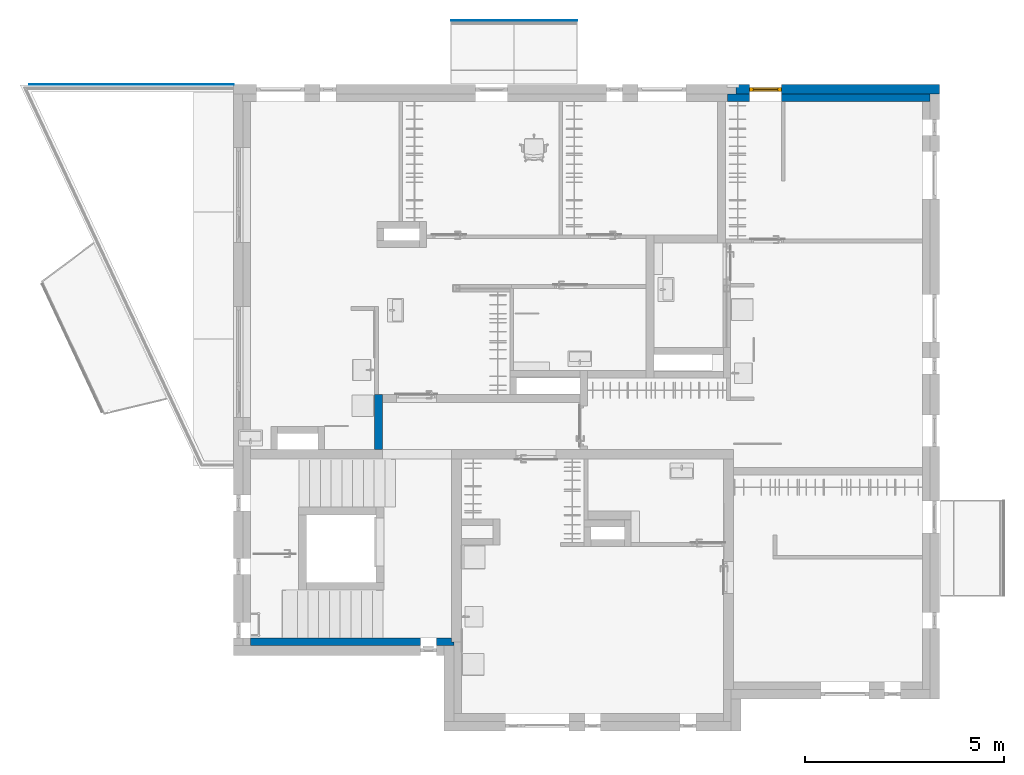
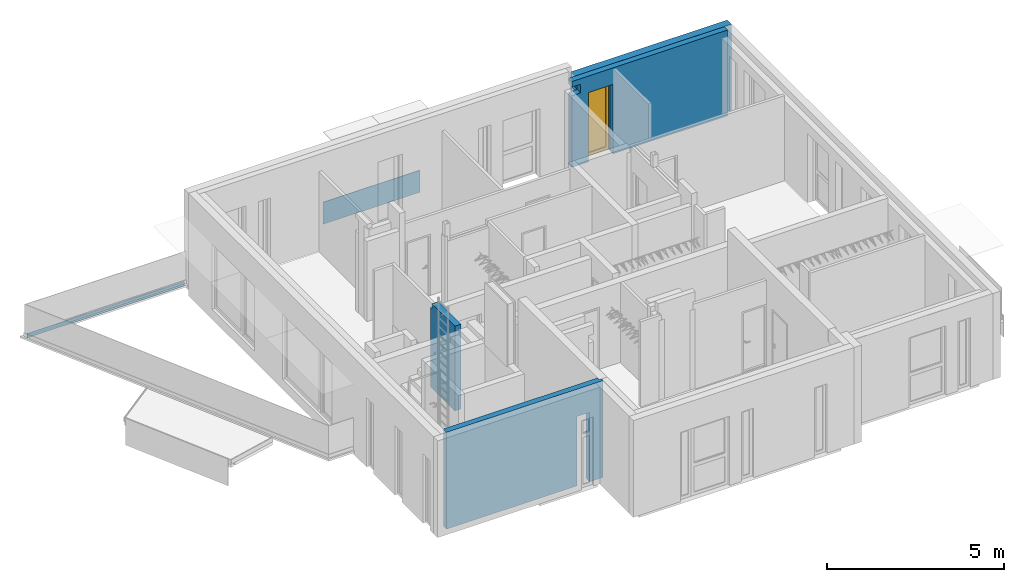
# One storey, part 7 of 42: 6 walls, 1 window, 26 openings.
"""IFC2X3 building model written with IfcOpenShell, lengths in millimetres."""

from ifc_helpers import new_model, entity, si_unit, converted_unit, direction, frame, frame_2d, origin, place, context, subcontext, project, spatial, polyline, rectangle, extrude, clip, bounded_halfspace, faceted_brep, source, transform, mapped, material, material_list, layer, layer_set, layer_usage, type_object, type_shapes, element, fill, save


model = new_model("IFC2X3")

# Units and contexts
model_context = context("Model", 3, precision=0.01, world=origin(), true_north=direction((6.123233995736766e-17, 1.0)))
plan_context = context("Plan", 3, precision=0.01, world=origin(), true_north=direction((6.123233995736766e-17, 1.0)))
body_context = subcontext(model_context, "Body", "Model", "MODEL_VIEW")
ifc_project = project(units=[si_unit("LENGTHUNIT", "METRE", prefix="MILLI"), converted_unit("PLANEANGLEUNIT", "DEGREE", entity("IfcPlaneAngleMeasure", 0.017453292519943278), si_unit("PLANEANGLEUNIT", "RADIAN"), dimensions=[0, 0, 0, 0, 0, 0, 0]), si_unit("AREAUNIT", "SQUARE_METRE")], contexts=[model_context, plan_context])

# Site, building, storey
site_placement = place(None, origin())
site = spatial("IfcSite", under=ifc_project, at=site_placement, Name="Default", CompositionType="ELEMENT")
building_placement = place(site_placement, origin())
building = spatial("IfcBuilding", under=site, at=building_placement, CompositionType="ELEMENT")
storey_placement = place(building_placement, frame((0.0, 0.0, 9465.000076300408)))
storey = spatial("IfcBuildingStorey", under=building, at=storey_placement, Name="4K", CompositionType="ELEMENT", Elevation=9465.000076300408)

# Wall
ifc_material_1 = material(Name="_K. Väisviimistlus. Krohv. Valge")
ifc_layer_1 = layer(ifc_material_1, 5.0)
ifc_material_2 = material(Name="_K. Müüritis. Väikeplokk. Betoon-õõnesplokk")
ifc_layer_2 = layer(ifc_material_2, 190.00000000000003)
ifc_layer_3 = layer(ifc_material_1, 5.0)
ifc_layer_set_1 = layer_set([ifc_layer_1, ifc_layer_2, ifc_layer_3], Name="Basic Wall:SS-01. 190")
wall_type_1 = type_object("IfcWallType", Name="Basic Wall:SS-01. 190", PredefinedType="STANDARD", material=ifc_layer_set_1)
wall_1_placement = place(storey_placement, frame((3220.0, 6644.999959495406, 0.0), z_axis=(0.0, 0.0, 1.0), x_axis=(0.0, 1.0, 0.0)))
element("IfcWall", 1, at=wall_1_placement, inside=storey, type_object=wall_type_1, Name="Basic Wall:SS-01. 190", ObjectType="Basic Wall:SS-01. 190", context=body_context, shape_type="Brep", body=[
    faceted_brep([(0.0, -100.0, 0.0), (1190.0, -100.0, 0.0), (1390.0, -100.0, 0.0), (1390.0, -100.0, 2749.9998779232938), (1290.0, -100.0, 2749.9998779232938), (1290.0, -100.0, 2925.999923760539), (0.0, -100.0, 2925.999923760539), (0.0, -100.0, 2475.999923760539), (0.0, 100.0, 0.0), (0.0, 100.0, 2925.999923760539), (1290.0, 100.0, 2925.999923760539), (1290.0, 100.0, 2749.9998779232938), (1390.0, 100.0, 2749.9998779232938), (1390.0, 100.0, 0.0), (1190.0, 100.0, 0.0), (1290.0, 8.0, 2925.999923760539), (1290.0, 8.0, 2749.9998779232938), (1390.0, 8.0, 2749.9998779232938)], [[[0, 1, 2, 3, 4, 5, 6, 7]], [[8, 9, 10, 11, 12, 13, 14]], [[2, 1, 0, 8, 14, 13]], [[6, 5, 15, 10, 9]], [[0, 7, 6, 9, 8]], [[5, 4, 16, 11, 10, 15]], [[3, 2, 13, 12, 17]], [[11, 16, 4, 3, 17, 12]]]),
])

# Wall, openings
ifc_layer_usage_1 = layer_usage(ifc_layer_set_1, "AXIS2", "NEGATIVE", 100.00000000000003)
wall_2_placement = place(storey_placement, frame((12000.0, 15500.0, 0.0)))
wall_2 = element("IfcWallStandardCase", 2, at=wall_2_placement, inside=storey, type_object=wall_type_1, material=ifc_layer_usage_1, Name="Basic Wall:SS-01. 190", ObjectType="Basic Wall:SS-01. 190", context=body_context, shape_type="Clipping", body=[
    clip(clip(extrude(rectangle(XDim=5089.999999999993, YDim=200.0000000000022, at=frame_2d((2544.9999999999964, 6.679101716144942e-13), x_axis=(-1.0, 0.0))), origin(), (0.0, 0.0, 1.0), 2970.0000686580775), bounded_halfspace(frame((0.0, 90.0, 0.0), z_axis=(0.0, -1.0, 0.0), x_axis=(1.0, 0.0, 0.0)), True, frame((0.0, 90.0, 0.0), z_axis=(0.0, -1.0, 0.0), x_axis=(1.0, 0.0, 0.0)), polyline([(0.0, 0.0), (210.0, 0.0), (550.0, 0.0), (550.0, 2400.0), (1350.0, 2400.0), (1350.0, 0.0), (5090.0, 0.0), (5090.0, 2970.0000686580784), (0.0, 2970.0000686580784), (0.0, 2780.0), (210.0, 2780.0), (280.0, 2780.0), (280.0, 2480.0), (210.0, 2480.0), (0.0, 2480.0), (0.0, 0.0)]))), bounded_halfspace(frame((5090.0, -100.0, 2970.0000686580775), z_axis=(-1.0, 0.0, 0.0), x_axis=(0.0, -1.0, 0.0)), True, frame((5090.0, -100.0, 2970.0000686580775), z_axis=(-1.0, 0.0, 0.0), x_axis=(0.0, -1.0, 0.0)), polyline([(0.0, 0.0), (-190.0, 0.0), (-190.0, -2970.0000686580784), (0.0, -2970.0000686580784), (0.0, -220.0), (0.0, 0.0)]))),
])
opening_1_placement = place(wall_2_placement, frame((-12000.0, -15500.0, 2480.0)))
element("IfcOpeningElement", 3, at=opening_1_placement, cuts=wall_2, Name="Basic Wall:SS-01. 190", ObjectType="Opening", context=body_context, shape_type="SweptSolid", body=[
    extrude(rectangle(XDim=299.9999999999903, YDim=299.9999999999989, at=frame_2d((1.0800249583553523e-12, -1.0800249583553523e-12), x_axis=(1.0, 0.0))), frame((12130.0, 14066.0, 150.0), z_axis=(0.0, 1.0, 0.0), x_axis=(0.0, 0.0, 1.0)), (0.0, 0.0, 1.0), 3048.0),
])
opening_2_placement = place(wall_2_placement, frame((-12000.0, -15500.0, 0.0)))
element("IfcOpeningElement", 4, at=opening_2_placement, cuts=wall_2, Name="Basic Wall:SS-01. 190", ObjectType="Opening", context=body_context, shape_type="Brep", body=[
    faceted_brep([(1350.0, 15850.0, 2400.0), (1350.0, 15156.0, 2400.0), (1350.0, 15156.0, 0.0), (1350.0, 15740.0, 0.0), (1350.0, 15750.0, 0.0), (1350.0, 15850.0, 0.0), (150.0, 15850.0, 2400.0), (150.0, 15156.0, 2400.0), (150.0, 15850.0, 0.0), (150.0, 15750.0, 0.0), (150.0, 15740.0, 0.0), (150.0, 15156.0, 0.0)], [[[0, 1, 2, 3, 4, 5]], [[6, 7, 1, 0]], [[8, 9, 10, 11, 7, 6]], [[5, 4, 3, 2, 11, 10, 9, 8]], [[6, 0, 5, 8]], [[7, 11, 2, 1]]]),
])
opening_3_placement = place(wall_2_placement, frame((-12000.0, -15500.0, 0.0)))
element("IfcOpeningElement", 5, at=opening_3_placement, cuts=wall_2, Name="Basic Wall:SS-01. 190", ObjectType="Opening", context=body_context, shape_type="Brep", body=[
    faceted_brep([(2150.0, 15850.0, 2400.0), (2150.0, 15156.0, 2400.0), (2150.0, 15156.0, 0.0), (2150.0, 15740.0, 0.0), (2150.0, 15750.0, 0.0), (2150.0, 15850.0, 0.0), (1750.0, 15850.0, 2400.0), (1750.0, 15156.0, 2400.0), (1750.0, 15850.0, 0.0), (1750.0, 15750.0, 0.0), (1750.0, 15740.0, 0.0), (1750.0, 15156.0, 0.0)], [[[0, 1, 2, 3, 4, 5]], [[6, 7, 1, 0]], [[8, 9, 10, 11, 7, 6]], [[5, 4, 3, 2, 11, 10, 9, 8]], [[6, 0, 5, 8]], [[7, 11, 2, 1]]]),
])
opening_4_placement = place(wall_2_placement, frame((-12000.0, -15500.0, 0.0)))
element("IfcOpeningElement", 6, at=opening_4_placement, cuts=wall_2, Name="Basic Wall:SS-01. 190", ObjectType="Opening", context=body_context, shape_type="Brep", body=[
    faceted_brep([(6460.0, 15850.0, 2400.0), (6460.0, 15156.0, 2400.0), (6460.0, 15156.0, 0.0), (6460.0, 15740.0, 0.0), (6460.0, 15750.0, 0.0), (6460.0, 15850.0, 0.0), (5660.0, 15850.0, 2400.0), (5660.0, 15156.0, 2400.0), (5660.0, 15850.0, 0.0), (5660.0, 15750.0, 0.0), (5660.0, 15740.0, 0.0), (5660.0, 15156.0, 0.0)], [[[0, 1, 2, 3, 4, 5]], [[6, 7, 1, 0]], [[8, 9, 10, 11, 7, 6]], [[5, 4, 3, 2, 11, 10, 9, 8]], [[6, 0, 5, 8]], [[7, 11, 2, 1]]]),
])
opening_5_placement = place(wall_2_placement, frame((-12000.0, -15500.0, 0.0)))
element("IfcOpeningElement", 7, at=opening_5_placement, cuts=wall_2, Name="Basic Wall:SS-01. 190", ObjectType="Opening", context=body_context, shape_type="Brep", body=[
    faceted_brep([(9350.0, 15850.0, 2400.0), (9350.0, 15156.0, 2400.0), (9350.0, 15156.0, 0.0), (9350.0, 15740.0, 0.0), (9350.0, 15750.0, 0.0), (9350.0, 15850.0, 0.0), (8950.0, 15850.0, 2400.0), (8950.0, 15156.0, 2400.0), (8950.0, 15850.0, 0.0), (8950.0, 15750.0, 0.0), (8950.0, 15740.0, 0.0), (8950.0, 15156.0, 0.0)], [[[0, 1, 2, 3, 4, 5]], [[6, 7, 1, 0]], [[8, 9, 10, 11, 7, 6]], [[5, 4, 3, 2, 11, 10, 9, 8]], [[6, 0, 5, 8]], [[7, 11, 2, 1]]]),
])
opening_6_placement = place(wall_2_placement, frame((-12000.0, -15500.0, 0.0)))
element("IfcOpeningElement", 8, at=opening_6_placement, cuts=wall_2, Name="Basic Wall:SS-01. 190", ObjectType="Opening", context=body_context, shape_type="Brep", body=[
    faceted_brep([(10950.0, 15850.0, 2400.0), (10950.0, 15156.0, 2400.0), (10950.0, 15156.0, 0.0), (10950.0, 15740.0, 0.0), (10950.0, 15750.0, 0.0), (10950.0, 15850.0, 0.0), (9750.0, 15850.0, 2400.0), (9750.0, 15156.0, 2400.0), (9750.0, 15850.0, 0.0), (9750.0, 15750.0, 0.0), (9750.0, 15740.0, 0.0), (9750.0, 15156.0, 0.0)], [[[0, 1, 2, 3, 4, 5]], [[6, 7, 1, 0]], [[8, 9, 10, 11, 7, 6]], [[5, 4, 3, 2, 11, 10, 9, 8]], [[6, 0, 5, 8]], [[7, 11, 2, 1]]]),
])
opening_7_placement = place(wall_2_placement, frame((-12000.0, -15500.0, 0.0)))
element("IfcOpeningElement", 9, at=opening_7_placement, cuts=wall_2, Name="Basic Wall:SS-01. 190", ObjectType="Opening", context=body_context, shape_type="Brep", body=[
    faceted_brep([(13350.0, 15850.0, 2400.0), (13350.0, 15156.0, 2400.0), (13350.0, 15156.0, 0.0), (13350.0, 15740.0, 0.0), (13350.0, 15750.0, 0.0), (13350.0, 15850.0, 0.0), (12550.0, 15850.0, 2400.0), (12550.0, 15156.0, 2400.0), (12550.0, 15850.0, 0.0), (12550.0, 15750.0, 0.0), (12550.0, 15740.0, 0.0), (12550.0, 15156.0, 0.0)], [[[0, 1, 2, 3, 4, 5]], [[6, 7, 1, 0]], [[8, 9, 10, 11, 7, 6]], [[5, 4, 3, 2, 11, 10, 9, 8]], [[6, 0, 5, 8]], [[7, 11, 2, 1]]]),
])

# Wall
ifc_layer_4 = layer(ifc_material_2, 190.00000000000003)
ifc_layer_set_2 = layer_set([ifc_layer_4], Name="Basic Wall:Columbia 190mm")
wall_type_2 = type_object("IfcWallType", Name="Basic Wall:Columbia 190mm", PredefinedType="STANDARD", material=ifc_layer_set_2)
wall_3_placement = place(storey_placement, frame((5114.997863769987, 1805.0, 0.0), z_axis=(0.0, 0.0, 1.0), x_axis=(-1.0, 0.0, 0.0)))
element("IfcWall", 10, at=wall_3_placement, inside=storey, type_object=wall_type_2, Name="Basic Wall:Columbia 190mm", ObjectType="Basic Wall:Columbia 190mm", context=body_context, shape_type="Brep", body=[
    faceted_brep([(5114.997863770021, -95.0, 3346.0), (65.00280291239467, -95.0, 3346.0), (65.00280291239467, -95.0, 0.0), (444.9978637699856, -95.0, 0.0), (444.9978637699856, -95.0, 2400.0), (844.9978637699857, -95.0, 2400.0), (844.9978637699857, -95.0, 0.0), (5114.997863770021, -95.0, 0.0), (5114.997863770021, -95.0, 2400.0), (0.0, 95.0, 3346.0), (4.997863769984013, 95.0, 3346.0), (244.997863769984, 95.0, 3346.0), (5114.99786377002, 95.0, 3346.0), (5114.99786377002, 95.0, 0.0), (844.9978637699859, 95.0, 0.0), (844.9978637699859, 95.0, 2400.0), (444.9978637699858, 95.0, 2400.0), (444.9978637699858, 95.0, 0.0), (244.997863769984, 95.0, 0.0), (4.997863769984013, 95.0, 0.0), (0.0, 95.0, 0.0), (65.00280291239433, 0.0, 0.0), (0.0, 0.0, 0.0), (0.0, 0.0, 3346.0), (65.00280291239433, 0.0, 3346.0)], [[[0, 1, 2, 3, 4, 5, 6, 7, 8]], [[9, 10, 11, 12, 13, 14, 15, 16, 17, 18, 19, 20]], [[2, 21, 22, 20, 19, 18, 17, 3]], [[1, 0, 12, 11, 10, 9, 23, 24]], [[2, 1, 24, 21]], [[24, 23, 22, 21]], [[9, 20, 22, 23]], [[5, 15, 14, 6]], [[15, 5, 4, 16]], [[16, 4, 3, 17]], [[0, 8, 7, 13, 12]], [[13, 7, 6, 14]]]),
])

# Wall, openings, window
ifc_layer_5 = layer(ifc_material_1, 10.0)
ifc_material_3 = material(Name="_K. Soojustus. EPS Silver")
ifc_layer_6 = layer(ifc_material_3, 230.0)
ifc_layer_set_3 = layer_set([ifc_layer_5, ifc_layer_6], Name="Basic Wall:VS-01")
ifc_layer_usage_2 = layer_usage(ifc_layer_set_3, "AXIS2", "NEGATIVE", 120.0)
wall_type_3 = type_object("IfcWallType", Name="Basic Wall:VS-01", PredefinedType="STANDARD", material=ifc_layer_set_3)
wall_4_placement = place(storey_placement, frame((12210.0, 15710.0, 0.0)))
wall_4 = element("IfcWallStandardCase", 11, at=wall_4_placement, inside=storey, type_object=wall_type_3, material=ifc_layer_usage_2, Name="Basic Wall:VS-01", ObjectType="Basic Wall:VS-01", context=body_context, shape_type="SweptSolid", body=[
    extrude(rectangle(XDim=5119.999999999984, YDim=240.00000000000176, at=frame_2d((2559.999999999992, 6.110667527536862e-13), x_axis=(-1.0, 0.0))), origin(), (0.0, 0.0, 1.0), 2970.374091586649),
])
opening_8_placement = place(wall_4_placement, frame((-12210.0, -15710.0, 2480.0)))
element("IfcOpeningElement", 12, at=opening_8_placement, cuts=wall_4, Name="Basic Wall:VS-01", ObjectType="Opening", context=body_context, shape_type="SweptSolid", body=[
    extrude(rectangle(XDim=299.9999999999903, YDim=299.9999999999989, at=frame_2d((1.0800249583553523e-12, -1.0800249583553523e-12), x_axis=(1.0, 0.0))), frame((12130.0, 14066.0, 150.0), z_axis=(0.0, 1.0, 0.0), x_axis=(0.0, 0.0, 1.0)), (0.0, 0.0, 1.0), 3048.0),
])
opening_9_placement = place(wall_4_placement, frame((-12210.0, -15710.0, 0.0)))
element("IfcOpeningElement", 13, at=opening_9_placement, cuts=wall_4, Name="Basic Wall:VS-01", ObjectType="Opening", context=body_context, shape_type="Brep", body=[
    faceted_brep([(1350.0, 15850.0, 2400.0), (1350.0, 15156.0, 2400.0), (1350.0, 15156.0, 0.0), (1350.0, 15740.0, 0.0), (1350.0, 15750.0, 0.0), (1350.0, 15850.0, 0.0), (150.0, 15850.0, 2400.0), (150.0, 15156.0, 2400.0), (150.0, 15850.0, 0.0), (150.0, 15750.0, 0.0), (150.0, 15740.0, 0.0), (150.0, 15156.0, 0.0)], [[[0, 1, 2, 3, 4, 5]], [[6, 7, 1, 0]], [[8, 9, 10, 11, 7, 6]], [[5, 4, 3, 2, 11, 10, 9, 8]], [[6, 0, 5, 8]], [[7, 11, 2, 1]]]),
])
opening_10_placement = place(wall_4_placement, frame((-12210.0, -15710.0, 0.0)))
element("IfcOpeningElement", 14, at=opening_10_placement, cuts=wall_4, Name="Basic Wall:VS-01", ObjectType="Opening", context=body_context, shape_type="Brep", body=[
    faceted_brep([(2150.0, 15850.0, 2400.0), (2150.0, 15156.0, 2400.0), (2150.0, 15156.0, 0.0), (2150.0, 15740.0, 0.0), (2150.0, 15750.0, 0.0), (2150.0, 15850.0, 0.0), (1750.0, 15850.0, 2400.0), (1750.0, 15156.0, 2400.0), (1750.0, 15850.0, 0.0), (1750.0, 15750.0, 0.0), (1750.0, 15740.0, 0.0), (1750.0, 15156.0, 0.0)], [[[0, 1, 2, 3, 4, 5]], [[6, 7, 1, 0]], [[8, 9, 10, 11, 7, 6]], [[5, 4, 3, 2, 11, 10, 9, 8]], [[6, 0, 5, 8]], [[7, 11, 2, 1]]]),
])
opening_11_placement = place(wall_4_placement, frame((-12210.0, -15710.0, 0.0)))
element("IfcOpeningElement", 15, at=opening_11_placement, cuts=wall_4, Name="Basic Wall:VS-01", ObjectType="Opening", context=body_context, shape_type="Brep", body=[
    faceted_brep([(6460.0, 15850.0, 2400.0), (6460.0, 15156.0, 2400.0), (6460.0, 15156.0, 0.0), (6460.0, 15740.0, 0.0), (6460.0, 15750.0, 0.0), (6460.0, 15850.0, 0.0), (5660.0, 15850.0, 2400.0), (5660.0, 15156.0, 2400.0), (5660.0, 15850.0, 0.0), (5660.0, 15750.0, 0.0), (5660.0, 15740.0, 0.0), (5660.0, 15156.0, 0.0)], [[[0, 1, 2, 3, 4, 5]], [[6, 7, 1, 0]], [[8, 9, 10, 11, 7, 6]], [[5, 4, 3, 2, 11, 10, 9, 8]], [[6, 0, 5, 8]], [[7, 11, 2, 1]]]),
])
opening_12_placement = place(wall_4_placement, frame((-12210.0, -15710.0, 0.0)))
element("IfcOpeningElement", 16, at=opening_12_placement, cuts=wall_4, Name="Basic Wall:VS-01", ObjectType="Opening", context=body_context, shape_type="Brep", body=[
    faceted_brep([(9350.0, 15850.0, 2400.0), (9350.0, 15156.0, 2400.0), (9350.0, 15156.0, 0.0), (9350.0, 15740.0, 0.0), (9350.0, 15750.0, 0.0), (9350.0, 15850.0, 0.0), (8950.0, 15850.0, 2400.0), (8950.0, 15156.0, 2400.0), (8950.0, 15850.0, 0.0), (8950.0, 15750.0, 0.0), (8950.0, 15740.0, 0.0), (8950.0, 15156.0, 0.0)], [[[0, 1, 2, 3, 4, 5]], [[6, 7, 1, 0]], [[8, 9, 10, 11, 7, 6]], [[5, 4, 3, 2, 11, 10, 9, 8]], [[6, 0, 5, 8]], [[7, 11, 2, 1]]]),
])
opening_13_placement = place(wall_4_placement, frame((-12210.0, -15710.0, 0.0)))
element("IfcOpeningElement", 17, at=opening_13_placement, cuts=wall_4, Name="Basic Wall:VS-01", ObjectType="Opening", context=body_context, shape_type="Brep", body=[
    faceted_brep([(10950.0, 15850.0, 2400.0), (10950.0, 15156.0, 2400.0), (10950.0, 15156.0, 0.0), (10950.0, 15740.0, 0.0), (10950.0, 15750.0, 0.0), (10950.0, 15850.0, 0.0), (9750.0, 15850.0, 2400.0), (9750.0, 15156.0, 2400.0), (9750.0, 15850.0, 0.0), (9750.0, 15750.0, 0.0), (9750.0, 15740.0, 0.0), (9750.0, 15156.0, 0.0)], [[[0, 1, 2, 3, 4, 5]], [[6, 7, 1, 0]], [[8, 9, 10, 11, 7, 6]], [[5, 4, 3, 2, 11, 10, 9, 8]], [[6, 0, 5, 8]], [[7, 11, 2, 1]]]),
])
opening_14_placement = place(wall_4_placement, frame((-12210.0, -15710.0, 3345.999923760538)))
element("IfcOpeningElement", 18, at=opening_14_placement, cuts=wall_4, Name="Basic Wall:VS-01", ObjectType="Opening", context=body_context, shape_type="Brep", body=[
    faceted_brep([(11350.0, 15850.0, 2400.0), (11350.0, 15156.0, 2400.0), (11350.0, 15156.0, 0.0), (11350.0, 15740.0, 0.0), (11350.0, 15750.0, 0.0), (11350.0, 15850.0, 0.0), (10950.0, 15850.0, 2400.0), (10950.0, 15156.0, 2400.0), (10950.0, 15850.0, 0.0), (10950.0, 15750.0, 0.0), (10950.0, 15740.0, 0.0), (10950.0, 15156.0, 0.0)], [[[0, 1, 2, 3, 4, 5]], [[6, 7, 1, 0]], [[8, 9, 10, 11, 7, 6]], [[5, 4, 3, 2, 11, 10, 9, 8]], [[6, 0, 5, 8]], [[7, 11, 2, 1]]]),
])
opening_15_placement = place(wall_4_placement, frame((-12210.0, -15710.0, 3345.999923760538)))
element("IfcOpeningElement", 19, at=opening_15_placement, cuts=wall_4, Name="Basic Wall:VS-01", ObjectType="Opening", context=body_context, shape_type="Brep", body=[
    faceted_brep([(9750.0, 15850.0, 2400.0), (9750.0, 15156.0, 2400.0), (9750.0, 15156.0, 0.0), (9750.0, 15740.0, 0.0), (9750.0, 15750.0, 0.0), (9750.0, 15850.0, 0.0), (8950.0, 15850.0, 2400.0), (8950.0, 15156.0, 2400.0), (8950.0, 15850.0, 0.0), (8950.0, 15750.0, 0.0), (8950.0, 15740.0, 0.0), (8950.0, 15156.0, 0.0)], [[[0, 1, 2, 3, 4, 5]], [[6, 7, 1, 0]], [[8, 9, 10, 11, 7, 6]], [[5, 4, 3, 2, 11, 10, 9, 8]], [[6, 0, 5, 8]], [[7, 11, 2, 1]]]),
])
opening_16_placement = place(wall_4_placement, frame((-12210.0, -15710.0, 3345.999923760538)))
element("IfcOpeningElement", 20, at=opening_16_placement, cuts=wall_4, Name="Basic Wall:VS-01", ObjectType="Opening", context=body_context, shape_type="Brep", body=[
    faceted_brep([(8230.0, 15850.0, 2400.0), (8230.0, 15156.0, 2400.0), (8230.0, 15156.0, 0.0), (8230.0, 15740.0, 0.0), (8230.0, 15750.0, 0.0), (8230.0, 15850.0, 0.0), (7030.0, 15850.0, 2400.0), (7030.0, 15156.0, 2400.0), (7030.0, 15850.0, 0.0), (7030.0, 15750.0, 0.0), (7030.0, 15740.0, 0.0), (7030.0, 15156.0, 0.0)], [[[0, 1, 2, 3, 4, 5]], [[6, 7, 1, 0]], [[8, 9, 10, 11, 7, 6]], [[5, 4, 3, 2, 11, 10, 9, 8]], [[6, 0, 5, 8]], [[7, 11, 2, 1]]]),
])
opening_17_placement = place(wall_4_placement, frame((-12210.0, -15710.0, 3345.999923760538)))
element("IfcOpeningElement", 21, at=opening_17_placement, cuts=wall_4, Name="Basic Wall:VS-01", ObjectType="Opening", context=body_context, shape_type="Brep", body=[
    faceted_brep([(4625.0, 15850.0, 2400.0), (4625.0, 15156.0, 2400.0), (4625.0, 15156.0, 0.0), (4625.0, 15740.0, 0.0), (4625.0, 15750.0, 0.0), (4625.0, 15850.0, 0.0), (4225.0, 15850.0, 2400.0), (4225.0, 15156.0, 2400.0), (4225.0, 15850.0, 0.0), (4225.0, 15750.0, 0.0), (4225.0, 15740.0, 0.0), (4225.0, 15156.0, 0.0)], [[[0, 1, 2, 3, 4, 5]], [[6, 7, 1, 0]], [[8, 9, 10, 11, 7, 6]], [[5, 4, 3, 2, 11, 10, 9, 8]], [[6, 0, 5, 8]], [[7, 11, 2, 1]]]),
])
opening_18_placement = place(wall_4_placement, frame((-12210.0, -15710.0, 3345.999923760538)))
element("IfcOpeningElement", 22, at=opening_18_placement, cuts=wall_4, Name="Basic Wall:VS-01", ObjectType="Opening", context=body_context, shape_type="Brep", body=[
    faceted_brep([(2550.0, 15850.0, 2400.0), (2550.0, 15156.0, 2400.0), (2550.0, 15156.0, 0.0), (2550.0, 15740.0, 0.0), (2550.0, 15750.0, 0.0), (2550.0, 15850.0, 0.0), (2150.0, 15850.0, 2400.0), (2150.0, 15156.0, 2400.0), (2150.0, 15850.0, 0.0), (2150.0, 15750.0, 0.0), (2150.0, 15740.0, 0.0), (2150.0, 15156.0, 0.0)], [[[0, 1, 2, 3, 4, 5]], [[6, 7, 1, 0]], [[8, 9, 10, 11, 7, 6]], [[5, 4, 3, 2, 11, 10, 9, 8]], [[6, 0, 5, 8]], [[7, 11, 2, 1]]]),
])
opening_19_placement = place(wall_4_placement, frame((-12210.0, -15710.0, 3345.999923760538)))
element("IfcOpeningElement", 23, at=opening_19_placement, cuts=wall_4, Name="Basic Wall:VS-01", ObjectType="Opening", context=body_context, shape_type="Brep", body=[
    faceted_brep([(7030.0, 15850.0, 2400.0), (7030.0, 15156.0, 2400.0), (7030.0, 15156.0, 0.0), (7030.0, 15740.0, 0.0), (7030.0, 15750.0, 0.0), (7030.0, 15850.0, 0.0), (6230.0, 15850.0, 2400.0), (6230.0, 15156.0, 2400.0), (6230.0, 15850.0, 0.0), (6230.0, 15750.0, 0.0), (6230.0, 15740.0, 0.0), (6230.0, 15156.0, 0.0)], [[[0, 1, 2, 3, 4, 5]], [[6, 7, 1, 0]], [[8, 9, 10, 11, 7, 6]], [[5, 4, 3, 2, 11, 10, 9, 8]], [[6, 0, 5, 8]], [[7, 11, 2, 1]]]),
])
opening_20_placement = place(wall_4_placement, frame((-12210.0, -15710.0, 0.0)))
opening_20 = element("IfcOpeningElement", 24, at=opening_20_placement, cuts=wall_4, Name="Basic Wall:VS-01", ObjectType="Opening", context=body_context, shape_type="Brep", body=[
    faceted_brep([(13350.0, 15850.0, 2400.0), (13350.0, 15156.0, 2400.0), (13350.0, 15156.0, 0.0), (13350.0, 15740.0, 0.0), (13350.0, 15750.0, 0.0), (13350.0, 15850.0, 0.0), (12550.0, 15850.0, 2400.0), (12550.0, 15156.0, 2400.0), (12550.0, 15850.0, 0.0), (12550.0, 15750.0, 0.0), (12550.0, 15740.0, 0.0), (12550.0, 15156.0, 0.0)], [[[0, 1, 2, 3, 4, 5]], [[6, 7, 1, 0]], [[8, 9, 10, 11, 7, 6]], [[5, 4, 3, 2, 11, 10, 9, 8]], [[6, 0, 5, 8]], [[7, 11, 2, 1]]]),
])
ifc_material_4 = material(Name="_K. Avatäited. Raam. PVC. Valge")
ifc_material_5 = material(Name="_K. Klaas. Pakett")
ifc_material_6 = material(Name="_K. Avatäited. Raam. PVC. RAL9005")
ifc_material_list = material_list([ifc_material_4, ifc_material_5, ifc_material_6])
window_style = type_object("IfcWindowStyle", Name="HR_Window_Generic_Rectangle_1x1:A-02. 800x2400. ma", ConstructionType="NOTDEFINED", OperationType="NOTDEFINED", ParameterTakesPrecedence=False, Sizeable=False, material=ifc_material_list)
shared_shape = source(origin(), body_context, "Body", "Brep", [
    faceted_brep([(88.0, -194.0, 2312.0), (712.0, -194.0, 2312.0), (712.0, -194.0, 108.0), (88.0, -194.0, 108.0), (742.0, -194.0, 2342.0), (58.0, -194.0, 2342.0), (58.0, -194.0, 78.0), (742.0, -194.0, 78.0), (88.0, -159.0, 2312.0), (88.0, -159.0, 108.0), (712.0, -159.0, 108.0), (742.0, -159.0, 2342.0), (742.0, -159.0, 78.0), (58.0, -159.0, 78.0), (58.0, -159.0, 2342.0), (712.0, -159.0, 2312.0)], [[[0, 1, 2, 3], [4, 5, 6, 7]], [[8, 0, 3, 9]], [[9, 3, 2, 10]], [[11, 12, 13, 14], [15, 8, 9, 10]], [[1, 15, 10, 2]], [[6, 5, 14, 13]], [[7, 6, 13, 12]], [[4, 7, 12, 11]], [[15, 1, 0, 8]], [[5, 4, 11, 14]]], outer=[[False, True], [True], [True], [True, False], [True], [True], [True], [True], [True], [True]]),
    faceted_brep([(742.0, -159.0, 2342.0), (58.0, -159.0, 2342.0), (58.0, -159.0, 78.0), (742.0, -159.0, 78.0), (58.0, -134.0, 2342.0), (58.0, -134.0, 78.0), (742.0, -134.0, 78.0), (742.0, -134.0, 2342.0)], [[[0, 1, 2, 3]], [[2, 1, 4, 5]], [[3, 2, 5, 6]], [[0, 3, 6, 7]], [[7, 6, 5, 4]], [[1, 0, 7, 4]]]),
    faceted_brep([(742.0, -134.0, 78.0), (58.0, -134.0, 78.0), (58.0, -194.0, 78.0), (742.0, -194.0, 78.0), (58.0, -134.0, 2342.0), (58.0, -194.0, 2342.0), (742.0, -134.0, 2342.0), (742.0, -194.0, 2342.0), (88.0, -100.0, 108.0), (88.0, -100.0, 2312.0), (88.0, -134.0, 2312.0), (88.0, -134.0, 108.0), (712.0, -100.0, 108.0), (712.0, -134.0, 108.0), (712.0, -100.0, 2312.0), (712.0, -134.0, 2312.0), (0.0, -100.0, 2400.0), (800.0, -100.0, 2400.0), (800.0, -100.0, 30.0), (0.0, -100.0, 30.0), (800.0, -194.0, 2400.0), (0.0, -194.0, 2400.0), (0.0, -194.0, 30.0), (800.0, -194.0, 30.0), (0.0, -110.0, 30.0), (0.0, -110.0, 0.0), (0.0, -184.0, 0.0), (0.0, -184.0, 30.0), (800.0, -184.0, 30.0), (800.0, -184.0, 0.0), (800.0, -110.0, 0.0), (800.0, -110.0, 30.0)], [[[0, 1, 2, 3]], [[1, 4, 5, 2]], [[6, 0, 3, 7]], [[8, 9, 10, 11]], [[12, 8, 11, 13]], [[14, 12, 13, 15]], [[16, 17, 18, 19], [9, 8, 12, 14]], [[20, 21, 22, 23], [7, 3, 2, 5]], [[21, 16, 19, 24, 25, 26, 27, 22]], [[27, 28, 23, 22]], [[17, 20, 23, 28, 29, 30, 31, 18]], [[31, 24, 19, 18]], [[24, 31, 30, 25]], [[25, 30, 29, 26]], [[28, 27, 26, 29]], [[4, 6, 7, 5]], [[9, 14, 15, 10]], [[21, 20, 17, 16]], [[10, 15, 13, 11], [0, 6, 4, 1]]], outer=[[True], [True], [True], [True], [True], [True], [True, False], [True, False], [True], [True], [True], [True], [True], [True], [True], [True], [True], [True], [False, True]]),
])
type_shapes(window_style, [shared_shape])
window_placement = place(opening_20_placement, frame((12550.0, 15850.0, 0.0)))
window = element("IfcWindow", 25, at=window_placement, inside=storey, type_object=window_style, material=ifc_material_list, Name="HR_Window_Generic_Rectangle_1x1:A-02. 800x2400. ma", ObjectType="HR_Window_Generic_Rectangle_1x1:A-02. 800x2400. ma", OverallHeight=2465.0000000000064, OverallWidth=800.000000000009, context=body_context, shape_type="MappedRepresentation", body=[
    mapped(shared_shape, transform((0.0, 0.0, 0.0), scale=1.0)),
])
fill(opening_20, window)

# Wall, openings
ifc_layer_7 = layer(ifc_material_1, 10.0)
ifc_layer_set_4 = layer_set([ifc_layer_7], Name="Basic Wall:VS-01 krohv")
ifc_layer_usage_3 = layer_usage(ifc_layer_set_4, "AXIS2", "NEGATIVE", 5.0)
wall_type_4 = type_object("IfcWallType", Name="Basic Wall:VS-01 krohv", PredefinedType="STANDARD", material=ifc_layer_set_4)
wall_5_placement = place(storey_placement, frame((-5565.0, 15825.0, 0.0)))
wall_5 = element("IfcWallStandardCase", 26, at=wall_5_placement, inside=storey, type_object=wall_type_4, material=ifc_layer_usage_3, Name="Basic Wall:VS-01 krohv", ObjectType="Basic Wall:VS-01 krohv", context=body_context, shape_type="SweptSolid", body=[
    extrude(rectangle(XDim=5134.999999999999, YDim=10.000000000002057, at=frame_2d((2567.4999999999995, -1.9806378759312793e-13), x_axis=(-1.0, 0.0))), origin(), (0.0, 0.0, 1.0), 154.9999999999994),
])
opening_21_placement = place(wall_5_placement, frame((5565.0, -15825.0, 0.0)))
element("IfcOpeningElement", 27, at=opening_21_placement, cuts=wall_5, Name="Basic Wall:VS-01 krohv", ObjectType="Opening", context=body_context, shape_type="Brep", body=[
    faceted_brep([(1350.0, 15850.0, 2400.0), (1350.0, 15156.0, 2400.0), (1350.0, 15156.0, 0.0), (1350.0, 15740.0, 0.0), (1350.0, 15750.0, 0.0), (1350.0, 15850.0, 0.0), (150.0, 15850.0, 2400.0), (150.0, 15156.0, 2400.0), (150.0, 15850.0, 0.0), (150.0, 15750.0, 0.0), (150.0, 15740.0, 0.0), (150.0, 15156.0, 0.0)], [[[0, 1, 2, 3, 4, 5]], [[6, 7, 1, 0]], [[8, 9, 10, 11, 7, 6]], [[5, 4, 3, 2, 11, 10, 9, 8]], [[6, 0, 5, 8]], [[7, 11, 2, 1]]]),
])
opening_22_placement = place(wall_5_placement, frame((5565.0, -15825.0, 0.0)))
element("IfcOpeningElement", 28, at=opening_22_placement, cuts=wall_5, Name="Basic Wall:VS-01 krohv", ObjectType="Opening", context=body_context, shape_type="Brep", body=[
    faceted_brep([(2150.0, 15850.0, 2400.0), (2150.0, 15156.0, 2400.0), (2150.0, 15156.0, 0.0), (2150.0, 15740.0, 0.0), (2150.0, 15750.0, 0.0), (2150.0, 15850.0, 0.0), (1750.0, 15850.0, 2400.0), (1750.0, 15156.0, 2400.0), (1750.0, 15850.0, 0.0), (1750.0, 15750.0, 0.0), (1750.0, 15740.0, 0.0), (1750.0, 15156.0, 0.0)], [[[0, 1, 2, 3, 4, 5]], [[6, 7, 1, 0]], [[8, 9, 10, 11, 7, 6]], [[5, 4, 3, 2, 11, 10, 9, 8]], [[6, 0, 5, 8]], [[7, 11, 2, 1]]]),
])
opening_23_placement = place(wall_5_placement, frame((5565.0, -15825.0, 0.0)))
element("IfcOpeningElement", 29, at=opening_23_placement, cuts=wall_5, Name="Basic Wall:VS-01 krohv", ObjectType="Opening", context=body_context, shape_type="Brep", body=[
    faceted_brep([(6460.0, 15850.0, 2400.0), (6460.0, 15156.0, 2400.0), (6460.0, 15156.0, 0.0), (6460.0, 15740.0, 0.0), (6460.0, 15750.0, 0.0), (6460.0, 15850.0, 0.0), (5660.0, 15850.0, 2400.0), (5660.0, 15156.0, 2400.0), (5660.0, 15850.0, 0.0), (5660.0, 15750.0, 0.0), (5660.0, 15740.0, 0.0), (5660.0, 15156.0, 0.0)], [[[0, 1, 2, 3, 4, 5]], [[6, 7, 1, 0]], [[8, 9, 10, 11, 7, 6]], [[5, 4, 3, 2, 11, 10, 9, 8]], [[6, 0, 5, 8]], [[7, 11, 2, 1]]]),
])
opening_24_placement = place(wall_5_placement, frame((5565.0, -15825.0, 0.0)))
element("IfcOpeningElement", 30, at=opening_24_placement, cuts=wall_5, Name="Basic Wall:VS-01 krohv", ObjectType="Opening", context=body_context, shape_type="Brep", body=[
    faceted_brep([(9350.0, 15850.0, 2400.0), (9350.0, 15156.0, 2400.0), (9350.0, 15156.0, 0.0), (9350.0, 15740.0, 0.0), (9350.0, 15750.0, 0.0), (9350.0, 15850.0, 0.0), (8950.0, 15850.0, 2400.0), (8950.0, 15156.0, 2400.0), (8950.0, 15850.0, 0.0), (8950.0, 15750.0, 0.0), (8950.0, 15740.0, 0.0), (8950.0, 15156.0, 0.0)], [[[0, 1, 2, 3, 4, 5]], [[6, 7, 1, 0]], [[8, 9, 10, 11, 7, 6]], [[5, 4, 3, 2, 11, 10, 9, 8]], [[6, 0, 5, 8]], [[7, 11, 2, 1]]]),
])
opening_25_placement = place(wall_5_placement, frame((5565.0, -15825.0, 0.0)))
element("IfcOpeningElement", 31, at=opening_25_placement, cuts=wall_5, Name="Basic Wall:VS-01 krohv", ObjectType="Opening", context=body_context, shape_type="Brep", body=[
    faceted_brep([(10950.0, 15850.0, 2400.0), (10950.0, 15156.0, 2400.0), (10950.0, 15156.0, 0.0), (10950.0, 15740.0, 0.0), (10950.0, 15750.0, 0.0), (10950.0, 15850.0, 0.0), (9750.0, 15850.0, 2400.0), (9750.0, 15156.0, 2400.0), (9750.0, 15850.0, 0.0), (9750.0, 15750.0, 0.0), (9750.0, 15740.0, 0.0), (9750.0, 15156.0, 0.0)], [[[0, 1, 2, 3, 4, 5]], [[6, 7, 1, 0]], [[8, 9, 10, 11, 7, 6]], [[5, 4, 3, 2, 11, 10, 9, 8]], [[6, 0, 5, 8]], [[7, 11, 2, 1]]]),
])
opening_26_placement = place(wall_5_placement, frame((5565.0, -15825.0, 0.0)))
element("IfcOpeningElement", 32, at=opening_26_placement, cuts=wall_5, Name="Basic Wall:VS-01 krohv", ObjectType="Opening", context=body_context, shape_type="Brep", body=[
    faceted_brep([(13350.0, 15850.0, 2400.0), (13350.0, 15156.0, 2400.0), (13350.0, 15156.0, 0.0), (13350.0, 15740.0, 0.0), (13350.0, 15750.0, 0.0), (13350.0, 15850.0, 0.0), (12550.0, 15850.0, 2400.0), (12550.0, 15156.0, 2400.0), (12550.0, 15850.0, 0.0), (12550.0, 15750.0, 0.0), (12550.0, 15740.0, 0.0), (12550.0, 15156.0, 0.0)], [[[0, 1, 2, 3, 4, 5]], [[6, 7, 1, 0]], [[8, 9, 10, 11, 7, 6]], [[5, 4, 3, 2, 11, 10, 9, 8]], [[6, 0, 5, 8]], [[7, 11, 2, 1]]]),
])

# Wall
ifc_material_7 = material(Name="_K. Välisviimistlus. Alumiinium-komposiitplaat")
ifc_layer_8 = layer(ifc_material_7, 4.0)
ifc_material_8 = material(Name="_K. Õhk. Roov. Fassaadikatte alusroov. Horisontaalne. 25 mm")
ifc_layer_9 = layer(ifc_material_8, 16.0)
ifc_layer_set_5 = layer_set([ifc_layer_8, ifc_layer_9], Name="Basic Wall:VS-komposiit")
ifc_layer_usage_4 = layer_usage(ifc_layer_set_5, "AXIS2", "NEGATIVE", 10.000000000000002)
wall_type_5 = type_object("IfcWallType", Name="Basic Wall:VS-komposiit", PredefinedType="STANDARD")
wall_6_placement = place(storey_placement, frame((5040.4165884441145, 17442.0, -762.5000763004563)))
element("IfcWallStandardCase", 33, at=wall_6_placement, inside=storey, type_object=wall_type_5, material=ifc_layer_usage_4, Name="Basic Wall:VS-komposiit", ObjectType="Basic Wall:VS-komposiit", context=body_context, shape_type="SweptSolid", body=[
    extrude(rectangle(XDim=3169.583411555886, YDim=19.999999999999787, at=frame_2d((1584.791705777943, -1.234568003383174e-13), x_axis=(-1.0, 0.0))), origin(), (0.0, 0.0, 1.0), 762.5000763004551),
])

save(model, "model.ifc")
